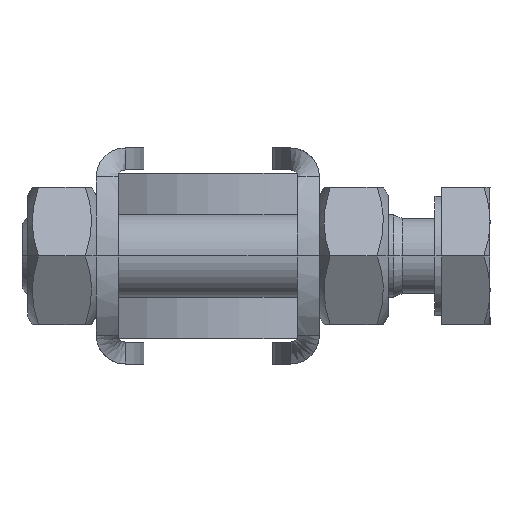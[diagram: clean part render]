
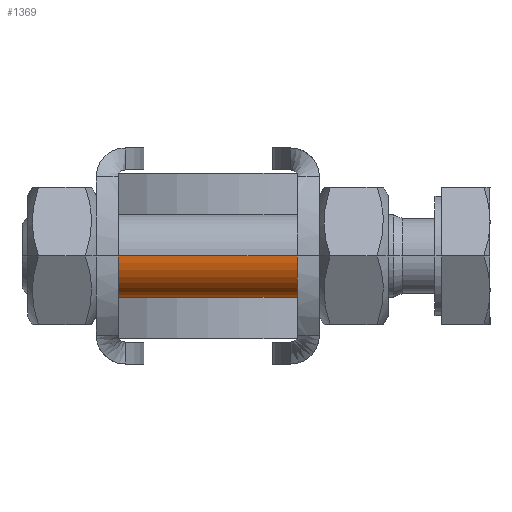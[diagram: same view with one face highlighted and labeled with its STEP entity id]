
A CAD part, left-side view. The second image highlights one B-rep face of the part: STEP entity #1369.
In plain terms, the highlighted cylindrical face has radius 3 mm (diameter 6 mm), a partial arc.
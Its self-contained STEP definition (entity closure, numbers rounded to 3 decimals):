
#1328=CARTESIAN_POINT('',(10.0,6.5,6.));
#1329=DIRECTION('',(0.,1.0,0.));
#1330=DIRECTION('',(1.0,0.0,0.0));
#1331=AXIS2_PLACEMENT_3D('',#1328,#1329,#1330);
#1332=CYLINDRICAL_SURFACE('',#1331,3.);
#1333=CARTESIAN_POINT('',(13.,-1.6,6.));
#1334=VERTEX_POINT('',#1333);
#1335=CARTESIAN_POINT('',(13.0,14.6,6.));
#1336=VERTEX_POINT('',#1335);
#1337=CARTESIAN_POINT('',(13.,-1.6,6.));
#1338=DIRECTION('',(0.0,1.0,0.0));
#1339=VECTOR('',#1338,16.2);
#1340=LINE('',#1337,#1339);
#1341=EDGE_CURVE('',#1334,#1336,#1340,.T.);
#1342=ORIENTED_EDGE('',*,*,#1341,.F.);
#1343=CARTESIAN_POINT('',(7.,-1.6,6.));
#1344=VERTEX_POINT('',#1343);
#1345=CARTESIAN_POINT('',(10.,-1.6,6.));
#1346=DIRECTION('',(0.0,1.0,0.0));
#1347=DIRECTION('',(1.0,0.0,0.0));
#1348=AXIS2_PLACEMENT_3D('',#1345,#1346,#1347);
#1349=CIRCLE('',#1348,3.);
#1350=EDGE_CURVE('',#1334,#1344,#1349,.T.);
#1351=ORIENTED_EDGE('',*,*,#1350,.T.);
#1352=CARTESIAN_POINT('',(7.,14.6,6.));
#1353=VERTEX_POINT('',#1352);
#1354=CARTESIAN_POINT('',(7.,14.6,6.));
#1355=DIRECTION('',(0.0,-1.0,0.0));
#1356=VECTOR('',#1355,16.2);
#1357=LINE('',#1354,#1356);
#1358=EDGE_CURVE('',#1353,#1344,#1357,.T.);
#1359=ORIENTED_EDGE('',*,*,#1358,.F.);
#1360=CARTESIAN_POINT('',(10.,14.6,6.));
#1361=DIRECTION('',(0.0,-1.0,0.0));
#1362=DIRECTION('',(1.0,0.0,0.0));
#1363=AXIS2_PLACEMENT_3D('',#1360,#1361,#1362);
#1364=CIRCLE('',#1363,3.);
#1365=EDGE_CURVE('',#1353,#1336,#1364,.T.);
#1366=ORIENTED_EDGE('',*,*,#1365,.T.);
#1367=EDGE_LOOP('',(#1342,#1351,#1359,#1366));
#1368=FACE_OUTER_BOUND('',#1367,.T.);
#1369=ADVANCED_FACE('',(#1368),#1332,.T.);
